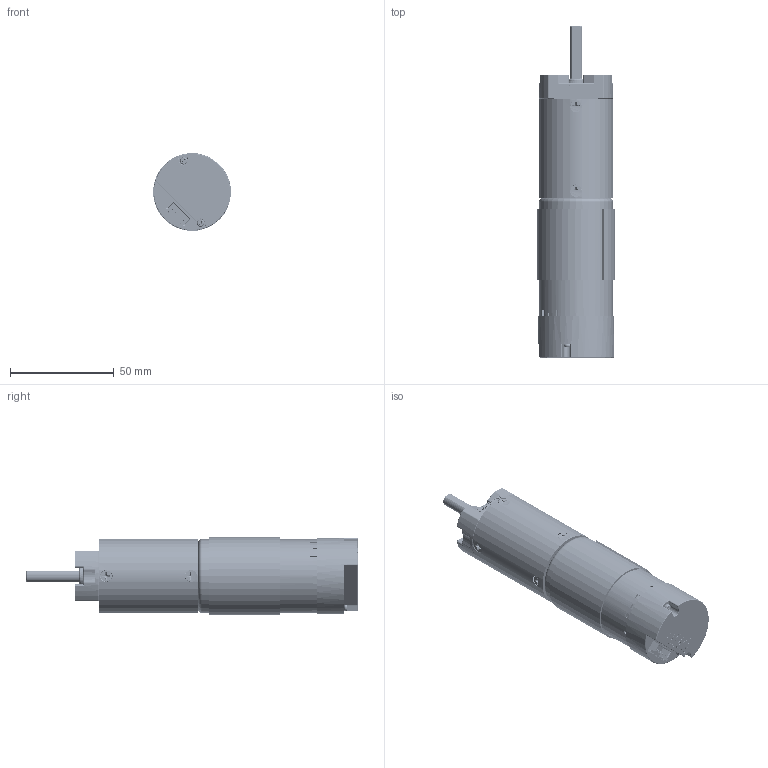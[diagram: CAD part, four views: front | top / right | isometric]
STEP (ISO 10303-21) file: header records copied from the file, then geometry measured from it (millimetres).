
FILE_DESCRIPTION(/* description */ (''),/* implementation_level */ '2;1');
FILE_NAME(/* name */ 'R:/Shared/Solidworks Files/(2) goBILDA/52 Gear Motors/5202 Series Gear Motors/In Warehouse/STEP Files/5202-2402-0188.step',/* time_stamp */ '2022-10-18T10:50:29-05:00',/* author */ (''),/* organization */ (''),/* preprocessor_version */ 'ST-DEVELOPER v19',/* originating_system */ 'Autodesk Translation Framework v11.7.0.108',/* authorisation */ '');
FILE_SCHEMA (('AUTOMOTIVE_DESIGN { 1 0 10303 214 3 1 1 }'));
Products named in the file (23): 5202-2402-0188; 5000-0002-0001; 5000-0002-0001 body; 5000-0002-0001 motor shield; 5000-0002-0001 encoder cap; endcap; JST-XH-4POS-VERT (1); Plastic (1); Pin (1); screw; base; screw_1; 99461A915_Phillips Rounded Head Thread-Forming Screws (1); 5000-0002-0001 motor shaft; 5102-0024-0188; 5102 Gearbox Base; 5102 Gearbox Barrel (4 stage, simple)_Gear Blank; 5102 Gearbox Face; 5102 Gearbox Shaft (23.5mm Length, Simple); 5102 Gearbox Snap Ring; 5102 Gearbox Barrel Screw (M3 x 8mm length Flat Head)_92010A118; 5102 Gearbox Bearing; 5102 Gearbox Base Mounting Screw M3 x 5mm length SHCS)_91290A110
Assembly tree (37 placements, depth 5):
  5202-2402-0188
    5000-0002-0001
      5000-0002-0001 body
      5000-0002-0001 motor shield
      5000-0002-0001 encoder cap
        endcap
        JST-XH-4POS-VERT (1)
          Plastic (1)
          Pin (1)  x4
        screw
          99461A915_Phillips Rounded Head Thread-Forming Screws (1)
        base
        screw_1
          99461A915_Phillips Rounded Head Thread-Forming Screws (1)
      5000-0002-0001 motor shaft
    5102-0024-0188
      5102 Gearbox Base
      5102 Gearbox Barrel (4 stage, simple)_Gear Blank
      5102 Gearbox Barrel Screw (M3 x 8mm length Flat Head)_92010A118  x8
      5102 Gearbox Face
      5102 Gearbox Bearing  x2
      5102 Gearbox Shaft (23.5mm Length, Simple)
      5102 Gearbox Snap Ring
      5102 Gearbox Base Mounting Screw M3 x 5mm length SHCS)_91290A110  x4
Bounding box: 37.46 x 159.7 x 37.48 mm (x, y, z)
Volume: 82078.6 mm3; surface area: 53743.7 mm2
Topology: 67 solids, 67 shells, 3428 faces, 8520 edges, 5301 vertices
Faces by surface type: cylinder 1237, plane 955, bspline 630, cone 299, sphere 160, torus 147
Full cylindrical faces by diameter (mm): 1.15 x10, 1.7 x2, 2 x14, 2.323 x88, 2.35 x100, 2.5 x57, 3 x264, 3.05 x8, 3.1 x4, 3.14 x1, 3.175 x1, 3.3 x77, 3.5 x2, 4 x74, 5.5 x4, 8 x2, 8.7 x1, 8.97 x2, 9 x2, 11.15 x4, 11.415 x4, 12.96 x1, 13 x1, 15 x1, 15.65 x4, 16.45 x4, 17 x4, 31.9 x2, 32 x2, 34 x1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
Entity records: 141799 total; most frequent: CARTESIAN_POINT 94683, ORIENTED_EDGE 10602, DIRECTION 8099, EDGE_CURVE 5301, VERTEX_POINT 3440, AXIS2_PLACEMENT_3D 2791, LINE 2517, VECTOR 2517
